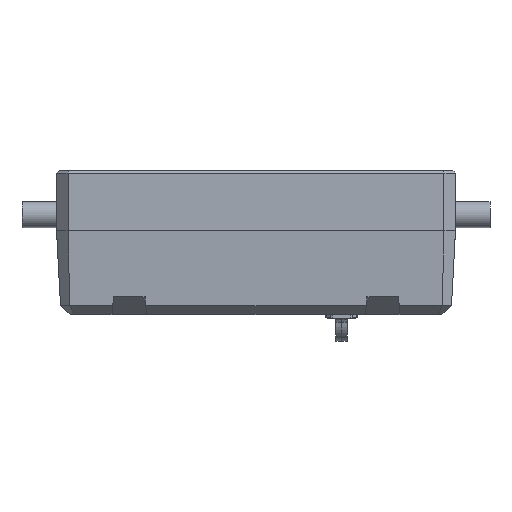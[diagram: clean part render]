
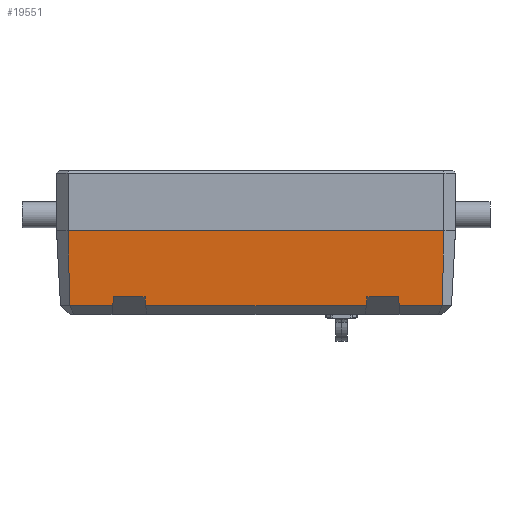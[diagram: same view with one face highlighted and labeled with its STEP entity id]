
A CAD part, top view. The second image highlights one B-rep face of the part: STEP entity #19551.
In plain terms, the highlighted planar face has unit normal (0, -0.052, 0.999).
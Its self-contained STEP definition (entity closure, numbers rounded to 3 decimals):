
#1102=PLANE('',#21168);
#2245=FACE_OUTER_BOUND('',#3400,.T.);
#3400=EDGE_LOOP('',(#16826,#16827,#16828,#16829,#16830,#16831,#16832,#16833,
#16834,#16835,#16836,#16837));
#5223=LINE('',#31618,#7476);
#5227=LINE('',#31624,#7480);
#5229=LINE('',#31628,#7482);
#5231=LINE('',#31632,#7484);
#5233=LINE('',#31636,#7486);
#5235=LINE('',#31640,#7488);
#5237=LINE('',#31644,#7490);
#5239=LINE('',#31648,#7492);
#5241=LINE('',#31652,#7494);
#5289=LINE('',#31917,#7542);
#5290=LINE('',#31919,#7543);
#5291=LINE('',#31920,#7544);
#7476=VECTOR('',#25087,1000.);
#7480=VECTOR('',#25093,1000.);
#7482=VECTOR('',#25097,1000.);
#7484=VECTOR('',#25101,1000.);
#7486=VECTOR('',#25105,1000.);
#7488=VECTOR('',#25109,1000.);
#7490=VECTOR('',#25113,1000.);
#7492=VECTOR('',#25117,1000.);
#7494=VECTOR('',#25121,1000.);
#7542=VECTOR('',#25217,1000.);
#7543=VECTOR('',#25218,1000.);
#7544=VECTOR('',#25219,1000.);
#9758=VERTEX_POINT('',#31616);
#9759=VERTEX_POINT('',#31617);
#9760=VERTEX_POINT('',#31622);
#9761=VERTEX_POINT('',#31626);
#9762=VERTEX_POINT('',#31630);
#9763=VERTEX_POINT('',#31634);
#9764=VERTEX_POINT('',#31638);
#9765=VERTEX_POINT('',#31642);
#9766=VERTEX_POINT('',#31646);
#9767=VERTEX_POINT('',#31650);
#9804=VERTEX_POINT('',#31916);
#9805=VERTEX_POINT('',#31918);
#12177=EDGE_CURVE('',#9758,#9759,#5223,.T.);
#12181=EDGE_CURVE('',#9760,#9759,#5227,.T.);
#12183=EDGE_CURVE('',#9761,#9760,#5229,.T.);
#12185=EDGE_CURVE('',#9762,#9761,#5231,.T.);
#12187=EDGE_CURVE('',#9762,#9763,#5233,.T.);
#12189=EDGE_CURVE('',#9764,#9763,#5235,.T.);
#12191=EDGE_CURVE('',#9764,#9765,#5237,.T.);
#12193=EDGE_CURVE('',#9766,#9765,#5239,.T.);
#12195=EDGE_CURVE('',#9766,#9767,#5241,.T.);
#12251=EDGE_CURVE('',#9767,#9804,#5289,.T.);
#12252=EDGE_CURVE('',#9804,#9805,#5290,.T.);
#12253=EDGE_CURVE('',#9805,#9758,#5291,.T.);
#16826=ORIENTED_EDGE('',*,*,#12181,.F.);
#16827=ORIENTED_EDGE('',*,*,#12183,.F.);
#16828=ORIENTED_EDGE('',*,*,#12185,.F.);
#16829=ORIENTED_EDGE('',*,*,#12187,.T.);
#16830=ORIENTED_EDGE('',*,*,#12189,.F.);
#16831=ORIENTED_EDGE('',*,*,#12191,.T.);
#16832=ORIENTED_EDGE('',*,*,#12193,.F.);
#16833=ORIENTED_EDGE('',*,*,#12195,.T.);
#16834=ORIENTED_EDGE('',*,*,#12251,.T.);
#16835=ORIENTED_EDGE('',*,*,#12252,.T.);
#16836=ORIENTED_EDGE('',*,*,#12253,.T.);
#16837=ORIENTED_EDGE('',*,*,#12177,.T.);
#19551=ADVANCED_FACE('',(#2245),#1102,.T.);
#21168=AXIS2_PLACEMENT_3D('',#31915,#25215,#25216);
#25087=DIRECTION('',(1.,0.,0.));
#25093=DIRECTION('',(-0.087,-0.995,-0.052));
#25097=DIRECTION('',(-1.,0.,0.));
#25101=DIRECTION('',(-0.087,0.995,0.052));
#25105=DIRECTION('',(1.,0.,0.));
#25109=DIRECTION('',(-0.087,-0.995,-0.052));
#25113=DIRECTION('',(1.,0.,0.));
#25117=DIRECTION('',(-0.087,0.995,0.052));
#25121=DIRECTION('',(1.,0.,0.));
#25215=DIRECTION('center_axis',(0.,-0.052,
0.999));
#25216=DIRECTION('ref_axis',(-1.,0.,0.));
#25217=DIRECTION('',(0.022,0.998,0.052));
#25218=DIRECTION('',(-1.,0.,0.));
#25219=DIRECTION('',(0.022,-0.998,-0.052));
#31616=CARTESIAN_POINT('',(-32.343,-0.502,16.569));
#31617=CARTESIAN_POINT('',(-24.869,-0.502,16.569));
#31618=CARTESIAN_POINT('',(0.,-0.502,16.569));
#31622=CARTESIAN_POINT('',(-24.733,1.047,16.65));
#31624=CARTESIAN_POINT('',(-24.733,1.047,16.65));
#31626=CARTESIAN_POINT('',(-19.267,1.047,16.65));
#31628=CARTESIAN_POINT('',(-19.,1.047,16.65));
#31630=CARTESIAN_POINT('',(-19.131,-0.502,16.569));
#31632=CARTESIAN_POINT('',(-19.131,-0.502,16.569));
#31634=CARTESIAN_POINT('',(19.131,-0.502,16.569));
#31636=CARTESIAN_POINT('',(0.,-0.502,16.569));
#31638=CARTESIAN_POINT('',(19.267,1.047,16.65));
#31640=CARTESIAN_POINT('',(19.267,1.047,16.65));
#31642=CARTESIAN_POINT('',(24.733,1.047,16.65));
#31644=CARTESIAN_POINT('',(19.,1.047,16.65));
#31646=CARTESIAN_POINT('',(24.869,-0.502,16.569));
#31648=CARTESIAN_POINT('',(24.869,-0.502,16.569));
#31650=CARTESIAN_POINT('',(32.343,-0.502,16.569));
#31652=CARTESIAN_POINT('',(0.,-0.502,16.569));
#31915=CARTESIAN_POINT('Origin',(-34.625,12.5,17.25));
#31916=CARTESIAN_POINT('',(32.625,12.5,17.25));
#31917=CARTESIAN_POINT('',(32.343,-0.502,16.569));
#31918=CARTESIAN_POINT('',(-32.625,12.5,17.25));
#31919=CARTESIAN_POINT('',(-34.625,12.5,17.25));
#31920=CARTESIAN_POINT('',(-32.625,12.5,17.25));
